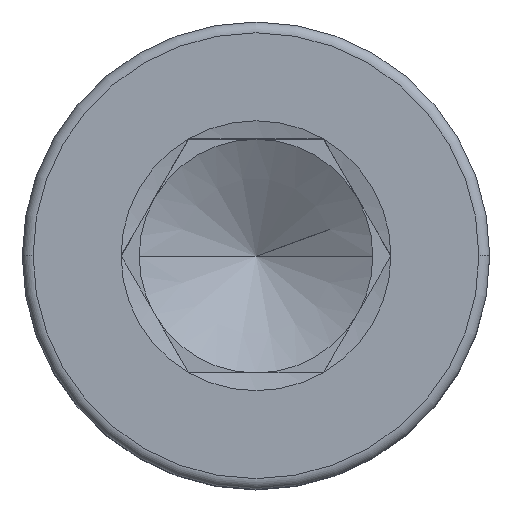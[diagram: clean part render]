
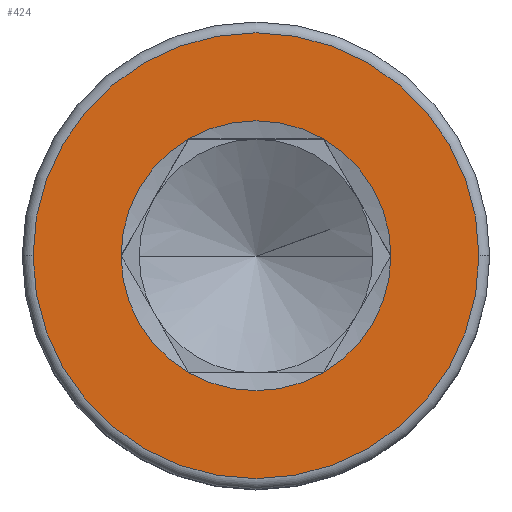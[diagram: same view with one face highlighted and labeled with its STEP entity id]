
A CAD part, top view. The second image highlights one B-rep face of the part: STEP entity #424.
In plain terms, the highlighted planar face has unit normal (0, 0, 1).
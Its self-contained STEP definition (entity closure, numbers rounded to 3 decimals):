
#25 = CARTESIAN_POINT ( 'NONE',  ( 0., 0., 10. ) ) ;
#42 = CIRCLE ( 'NONE', #1546, 4.619 ) ;
#46 = DIRECTION ( 'NONE',  ( 1., 0., 0. ) ) ;
#91 = EDGE_CURVE ( 'NONE', #1396, #1362, #42, .T. ) ;
#172 = DIRECTION ( 'NONE',  ( 0., 0., 1. ) ) ;
#193 = AXIS2_PLACEMENT_3D ( 'NONE', #426, #977, #285 ) ;
#225 = AXIS2_PLACEMENT_3D ( 'NONE', #311, #863, #1645 ) ;
#265 = CARTESIAN_POINT ( 'NONE',  ( 7.63, 0., 10. ) ) ;
#272 = EDGE_CURVE ( 'NONE', #1026, #1792, #773, .T. ) ;
#282 = CIRCLE ( 'NONE', #193, 4.619 ) ;
#285 = DIRECTION ( 'NONE',  ( 1., 0., 0. ) ) ;
#311 = CARTESIAN_POINT ( 'NONE',  ( 0., 0., 10. ) ) ;
#354 = CARTESIAN_POINT ( 'NONE',  ( 0., 0., 10. ) ) ;
#361 = CARTESIAN_POINT ( 'NONE',  ( 2.309, -4., 10. ) ) ;
#384 = PLANE ( 'NONE',  #799 ) ;
#400 = AXIS2_PLACEMENT_3D ( 'NONE', #1218, #1626, #1080 ) ;
#418 = DIRECTION ( 'NONE',  ( 1., 0., 0. ) ) ;
#424 = ADVANCED_FACE ( 'NONE', ( #678, #1231 ), #384, .T. ) ;
#426 = CARTESIAN_POINT ( 'NONE',  ( 0., 0., 10. ) ) ;
#477 = ORIENTED_EDGE ( 'NONE', *, *, #1232, .F. ) ;
#484 = ORIENTED_EDGE ( 'NONE', *, *, #1506, .F. ) ;
#544 = DIRECTION ( 'NONE',  ( 1., 0., 0. ) ) ;
#566 = EDGE_LOOP ( 'NONE', ( #982, #1382 ) ) ;
#665 = VERTEX_POINT ( 'NONE', #811 ) ;
#678 = FACE_OUTER_BOUND ( 'NONE', #566, .T. ) ;
#692 = AXIS2_PLACEMENT_3D ( 'NONE', #1253, #1671, #418 ) ;
#703 = CARTESIAN_POINT ( 'NONE',  ( -7.63, 0., 10. ) ) ;
#716 = VERTEX_POINT ( 'NONE', #265 ) ;
#734 = CARTESIAN_POINT ( 'NONE',  ( 2.309, 4., 10. ) ) ;
#761 = EDGE_CURVE ( 'NONE', #1362, #1026, #1325, .T. ) ;
#773 = CIRCLE ( 'NONE', #1570, 4.619 ) ;
#787 = CARTESIAN_POINT ( 'NONE',  ( -2.309, 4., 10. ) ) ;
#799 = AXIS2_PLACEMENT_3D ( 'NONE', #1477, #1507, #544 ) ;
#811 = CARTESIAN_POINT ( 'NONE',  ( -4.619, 0., 10. ) ) ;
#840 = EDGE_CURVE ( 'NONE', #1147, #1396, #1577, .T. ) ;
#857 = CIRCLE ( 'NONE', #1211, 4.619 ) ;
#863 = DIRECTION ( 'NONE',  ( 0., 0., 1. ) ) ;
#904 = DIRECTION ( 'NONE',  ( 0., 0., 1. ) ) ;
#964 = DIRECTION ( 'NONE',  ( 1., 0., 0. ) ) ;
#977 = DIRECTION ( 'NONE',  ( 0., 0., 1. ) ) ;
#981 = DIRECTION ( 'NONE',  ( 0., 0., 1. ) ) ;
#982 = ORIENTED_EDGE ( 'NONE', *, *, #1217, .T. ) ;
#1026 = VERTEX_POINT ( 'NONE', #734 ) ;
#1063 = CIRCLE ( 'NONE', #692, 7.63 ) ;
#1080 = DIRECTION ( 'NONE',  ( 1., 0., 0. ) ) ;
#1098 = ORIENTED_EDGE ( 'NONE', *, *, #840, .F. ) ;
#1128 = DIRECTION ( 'NONE',  ( 1., 0., 0. ) ) ;
#1147 = VERTEX_POINT ( 'NONE', #1425 ) ;
#1191 = EDGE_CURVE ( 'NONE', #1192, #716, #1670, .T. ) ;
#1192 = VERTEX_POINT ( 'NONE', #703 ) ;
#1211 = AXIS2_PLACEMENT_3D ( 'NONE', #1401, #172, #1128 ) ;
#1217 = EDGE_CURVE ( 'NONE', #716, #1192, #1063, .T. ) ;
#1218 = CARTESIAN_POINT ( 'NONE',  ( 0., 0., 10. ) ) ;
#1231 = FACE_BOUND ( 'NONE', #1631, .T. ) ;
#1232 = EDGE_CURVE ( 'NONE', #1792, #665, #282, .T. ) ;
#1253 = CARTESIAN_POINT ( 'NONE',  ( 0., 0., 10. ) ) ;
#1325 = CIRCLE ( 'NONE', #400, 4.619 ) ;
#1356 = CARTESIAN_POINT ( 'NONE',  ( 4.619, 0., 10. ) ) ;
#1362 = VERTEX_POINT ( 'NONE', #1356 ) ;
#1382 = ORIENTED_EDGE ( 'NONE', *, *, #1191, .T. ) ;
#1387 = ORIENTED_EDGE ( 'NONE', *, *, #272, .F. ) ;
#1393 = DIRECTION ( 'NONE',  ( 1., 0., 0. ) ) ;
#1396 = VERTEX_POINT ( 'NONE', #361 ) ;
#1401 = CARTESIAN_POINT ( 'NONE',  ( 0., 0., 10. ) ) ;
#1425 = CARTESIAN_POINT ( 'NONE',  ( -2.309, -4., 10. ) ) ;
#1477 = CARTESIAN_POINT ( 'NONE',  ( 0., 0., 10. ) ) ;
#1506 = EDGE_CURVE ( 'NONE', #665, #1147, #857, .T. ) ;
#1507 = DIRECTION ( 'NONE',  ( 0., 0., 1. ) ) ;
#1546 = AXIS2_PLACEMENT_3D ( 'NONE', #354, #904, #1393 ) ;
#1570 = AXIS2_PLACEMENT_3D ( 'NONE', #1720, #1712, #46 ) ;
#1577 = CIRCLE ( 'NONE', #1636, 4.619 ) ;
#1626 = DIRECTION ( 'NONE',  ( 0., 0., 1. ) ) ;
#1631 = EDGE_LOOP ( 'NONE', ( #1714, #1644, #1098, #484, #477, #1387 ) ) ;
#1636 = AXIS2_PLACEMENT_3D ( 'NONE', #25, #981, #964 ) ;
#1644 = ORIENTED_EDGE ( 'NONE', *, *, #91, .F. ) ;
#1645 = DIRECTION ( 'NONE',  ( 1., 0., 0. ) ) ;
#1670 = CIRCLE ( 'NONE', #225, 7.63 ) ;
#1671 = DIRECTION ( 'NONE',  ( 0., 0., 1. ) ) ;
#1712 = DIRECTION ( 'NONE',  ( 0., 0., 1. ) ) ;
#1714 = ORIENTED_EDGE ( 'NONE', *, *, #761, .F. ) ;
#1720 = CARTESIAN_POINT ( 'NONE',  ( 0., 0., 10. ) ) ;
#1792 = VERTEX_POINT ( 'NONE', #787 ) ;
